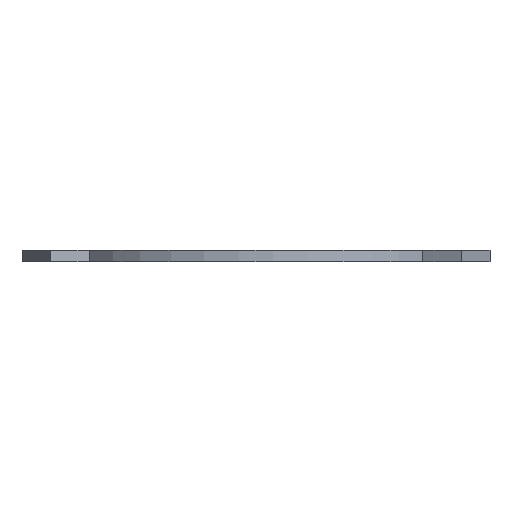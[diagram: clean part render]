
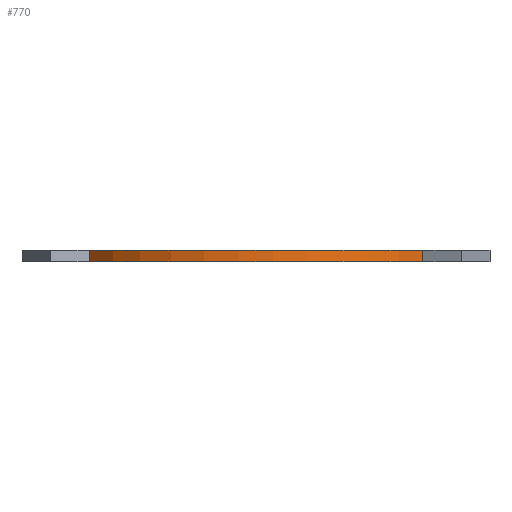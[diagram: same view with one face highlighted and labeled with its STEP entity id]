
A CAD part, left-side view. The second image highlights one B-rep face of the part: STEP entity #770.
In plain terms, the highlighted cylindrical face has radius 7.4 mm (diameter 14.8 mm), a partial arc.
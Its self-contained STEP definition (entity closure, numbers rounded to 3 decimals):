
#97 = PLANE('',#98);
#98 = AXIS2_PLACEMENT_3D('',#99,#100,#101);
#99 = CARTESIAN_POINT('',(0.,0.,0.));
#100 = DIRECTION('',(0.,0.,1.));
#101 = DIRECTION('',(1.,0.,-0.));
#326 = VERTEX_POINT('',#327);
#327 = CARTESIAN_POINT('',(-4.532,5.85,0.));
#348 = EDGE_CURVE('',#326,#349,#351,.T.);
#349 = VERTEX_POINT('',#350);
#350 = CARTESIAN_POINT('',(-4.532,-5.85,0.));
#351 = SURFACE_CURVE('',#352,(#357,#364),.PCURVE_S1.);
#352 = CIRCLE('',#353,7.4);
#353 = AXIS2_PLACEMENT_3D('',#354,#355,#356);
#354 = CARTESIAN_POINT('',(0.,0.,0.));
#355 = DIRECTION('',(0.,0.,1.));
#356 = DIRECTION('',(1.,0.,-0.));
#357 = PCURVE('',#97,#358);
#358 = DEFINITIONAL_REPRESENTATION('',(#359),#363);
#359 = CIRCLE('',#360,7.4);
#360 = AXIS2_PLACEMENT_2D('',#361,#362);
#361 = CARTESIAN_POINT('',(0.,0.));
#362 = DIRECTION('',(1.,0.));
#363 = ( GEOMETRIC_REPRESENTATION_CONTEXT(2) 
PARAMETRIC_REPRESENTATION_CONTEXT() REPRESENTATION_CONTEXT('2D SPACE',''
  ) );
#364 = PCURVE('',#365,#370);
#365 = CYLINDRICAL_SURFACE('',#366,7.4);
#366 = AXIS2_PLACEMENT_3D('',#367,#368,#369);
#367 = CARTESIAN_POINT('',(0.,0.,0.));
#368 = DIRECTION('',(0.,0.,1.));
#369 = DIRECTION('',(1.,0.,-0.));
#370 = DEFINITIONAL_REPRESENTATION('',(#371),#375);
#371 = LINE('',#372,#373);
#372 = CARTESIAN_POINT('',(0.,0.));
#373 = VECTOR('',#374,1.);
#374 = DIRECTION('',(1.,0.));
#375 = ( GEOMETRIC_REPRESENTATION_CONTEXT(2) 
PARAMETRIC_REPRESENTATION_CONTEXT() REPRESENTATION_CONTEXT('2D SPACE',''
  ) );
#700 = PLANE('',#701);
#701 = AXIS2_PLACEMENT_3D('',#702,#703,#704);
#702 = CARTESIAN_POINT('',(0.,0.,0.4));
#703 = DIRECTION('',(0.,0.,1.));
#704 = DIRECTION('',(1.,0.,-0.));
#770 = ADVANCED_FACE('',(#771),#365,.T.);
#771 = FACE_BOUND('',#772,.T.);
#772 = EDGE_LOOP('',(#773,#799,#823,#824));
#773 = ORIENTED_EDGE('',*,*,#774,.F.);
#774 = EDGE_CURVE('',#775,#777,#779,.T.);
#775 = VERTEX_POINT('',#776);
#776 = CARTESIAN_POINT('',(-4.532,5.85,0.4));
#777 = VERTEX_POINT('',#778);
#778 = CARTESIAN_POINT('',(-4.532,-5.85,0.4));
#779 = SURFACE_CURVE('',#780,(#785,#792),.PCURVE_S1.);
#780 = CIRCLE('',#781,7.4);
#781 = AXIS2_PLACEMENT_3D('',#782,#783,#784);
#782 = CARTESIAN_POINT('',(0.,0.,0.4));
#783 = DIRECTION('',(0.,0.,1.));
#784 = DIRECTION('',(1.,0.,-0.));
#785 = PCURVE('',#365,#786);
#786 = DEFINITIONAL_REPRESENTATION('',(#787),#791);
#787 = LINE('',#788,#789);
#788 = CARTESIAN_POINT('',(0.,0.4));
#789 = VECTOR('',#790,1.);
#790 = DIRECTION('',(1.,0.));
#791 = ( GEOMETRIC_REPRESENTATION_CONTEXT(2) 
PARAMETRIC_REPRESENTATION_CONTEXT() REPRESENTATION_CONTEXT('2D SPACE',''
  ) );
#792 = PCURVE('',#700,#793);
#793 = DEFINITIONAL_REPRESENTATION('',(#794),#798);
#794 = CIRCLE('',#795,7.4);
#795 = AXIS2_PLACEMENT_2D('',#796,#797);
#796 = CARTESIAN_POINT('',(0.,0.));
#797 = DIRECTION('',(1.,0.));
#798 = ( GEOMETRIC_REPRESENTATION_CONTEXT(2) 
PARAMETRIC_REPRESENTATION_CONTEXT() REPRESENTATION_CONTEXT('2D SPACE',''
  ) );
#799 = ORIENTED_EDGE('',*,*,#800,.F.);
#800 = EDGE_CURVE('',#326,#775,#801,.T.);
#801 = SURFACE_CURVE('',#802,(#806,#812),.PCURVE_S1.);
#802 = LINE('',#803,#804);
#803 = CARTESIAN_POINT('',(-4.532,5.85,0.));
#804 = VECTOR('',#805,1.);
#805 = DIRECTION('',(0.,0.,1.));
#806 = PCURVE('',#365,#807);
#807 = DEFINITIONAL_REPRESENTATION('',(#808),#811);
#808 = B_SPLINE_CURVE_WITH_KNOTS('',1,(#809,#810),.UNSPECIFIED.,.F.,.F.,
  (2,2),(0.,0.4),.PIECEWISE_BEZIER_KNOTS.);
#809 = CARTESIAN_POINT('',(2.23,0.));
#810 = CARTESIAN_POINT('',(2.23,0.4));
#811 = ( GEOMETRIC_REPRESENTATION_CONTEXT(2) 
PARAMETRIC_REPRESENTATION_CONTEXT() REPRESENTATION_CONTEXT('2D SPACE',''
  ) );
#812 = PCURVE('',#813,#818);
#813 = PLANE('',#814);
#814 = AXIS2_PLACEMENT_3D('',#815,#816,#817);
#815 = CARTESIAN_POINT('',(-4.516,5.822,0.));
#816 = DIRECTION('',(-0.866,-0.5,0.));
#817 = DIRECTION('',(0.,0.,1.));
#818 = DEFINITIONAL_REPRESENTATION('',(#819),#822);
#819 = B_SPLINE_CURVE_WITH_KNOTS('',1,(#820,#821),.UNSPECIFIED.,.F.,.F.,
  (2,2),(0.,0.4),.PIECEWISE_BEZIER_KNOTS.);
#820 = CARTESIAN_POINT('',(0.,0.032));
#821 = CARTESIAN_POINT('',(0.4,0.032));
#822 = ( GEOMETRIC_REPRESENTATION_CONTEXT(2) 
PARAMETRIC_REPRESENTATION_CONTEXT() REPRESENTATION_CONTEXT('2D SPACE',''
  ) );
#823 = ORIENTED_EDGE('',*,*,#348,.T.);
#824 = ORIENTED_EDGE('',*,*,#825,.T.);
#825 = EDGE_CURVE('',#349,#777,#826,.T.);
#826 = SURFACE_CURVE('',#827,(#831,#837),.PCURVE_S1.);
#827 = LINE('',#828,#829);
#828 = CARTESIAN_POINT('',(-4.532,-5.85,0.));
#829 = VECTOR('',#830,1.);
#830 = DIRECTION('',(0.,0.,1.));
#831 = PCURVE('',#365,#832);
#832 = DEFINITIONAL_REPRESENTATION('',(#833),#836);
#833 = B_SPLINE_CURVE_WITH_KNOTS('',1,(#834,#835),.UNSPECIFIED.,.F.,.F.,
  (2,2),(0.,0.4),.PIECEWISE_BEZIER_KNOTS.);
#834 = CARTESIAN_POINT('',(4.053,0.));
#835 = CARTESIAN_POINT('',(4.053,0.4));
#836 = ( GEOMETRIC_REPRESENTATION_CONTEXT(2) 
PARAMETRIC_REPRESENTATION_CONTEXT() REPRESENTATION_CONTEXT('2D SPACE',''
  ) );
#837 = PCURVE('',#838,#843);
#838 = PLANE('',#839);
#839 = AXIS2_PLACEMENT_3D('',#840,#841,#842);
#840 = CARTESIAN_POINT('',(-4.516,-5.822,0.));
#841 = DIRECTION('',(0.866,-0.5,0.));
#842 = DIRECTION('',(0.,0.,1.));
#843 = DEFINITIONAL_REPRESENTATION('',(#844),#847);
#844 = B_SPLINE_CURVE_WITH_KNOTS('',1,(#845,#846),.UNSPECIFIED.,.F.,.F.,
  (2,2),(0.,0.4),.PIECEWISE_BEZIER_KNOTS.);
#845 = CARTESIAN_POINT('',(0.,0.032));
#846 = CARTESIAN_POINT('',(0.4,0.032));
#847 = ( GEOMETRIC_REPRESENTATION_CONTEXT(2) 
PARAMETRIC_REPRESENTATION_CONTEXT() REPRESENTATION_CONTEXT('2D SPACE',''
  ) );
